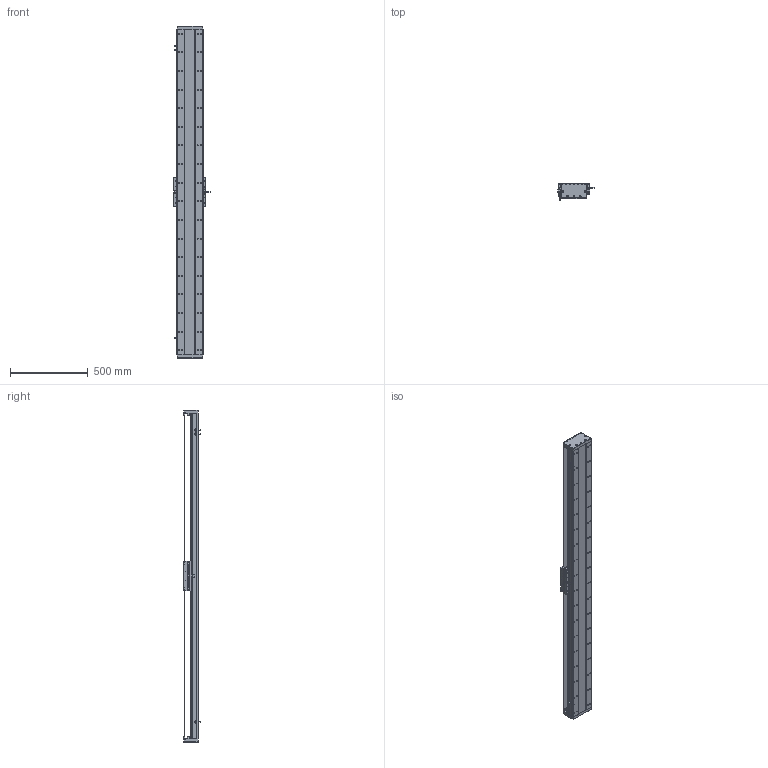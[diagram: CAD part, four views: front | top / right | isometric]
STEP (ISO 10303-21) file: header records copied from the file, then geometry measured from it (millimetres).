
FILE_DESCRIPTION (( 'STEP AP203' ), '1' );
FILE_NAME ('DA-C165-C2-T1860-C010-0.2 直线电机.STEP', '2023-05-11T07:43:44', ( '微软用户' ), ( '微软中国' ), 'SwSTEP 2.0', 'SolidWorks 2019', '' );
FILE_SCHEMA (( 'CONFIG_CONTROL_DESIGN' ));
Length unit declared in the file: millimetre
Products named in the file (18): DA-C165-C2-T1860-C010-0.2 眻盄萇儂; 复件 DA95-HXJ-00 缓冲橡胶^DA-C165-C2-T-C010-0.2-N 直线电机; IU-CU165-L-00 菁釱_L2100; 葩璃 CKM01-W075-TRL^DA-C165-C2-T-C010-0.2-N 眻盄萇儂; 复件 DA165-GD-DG-H-00 端盖^复件 CU165钢带组件_DA-C165-C2-T-C010-0.2-N 直线电机; 复件 CKM02-W075-C1C2-TP-3.0 一体电机-C2^DA-C165-C2-T-C010-0.2-N 直线电机; IU-CU165-L 菁釱絳寢; 复件 DA165-GD-1860-002-00 钢带盖板^复件 CU165钢带组件_DA-C165-C2-T-C010-0.2-N 直线电机; 葩璃 DA95-GT-T-00^IU-CU165-L 菁釱絳寢_T; 复件 DA165-GDLK-00 钢带拉块^复件 CU165钢带组件_DA-C165-C2-T-C010-0.2-N 直线电机; 复件 六角薄螺母 M3^DA-C165-C2-T-C010-0.2-N 直线电机_GB_FASTENER_NUT_STNAB M3-C; 复件 CU165钢带组件^DA-C165-C2-T-C010-0.2-N 直线电机; 复件 DA165-GYP-00 光电感应片^DA-C165-C2-T-C010-0.2-N 直线电机; 复件 DMA-010-0.2 读数头^DA-C165-C2-T-C010-0.2-N 直线电机; 葩璃 PM-T45^DA-C165-C2-T-C010-0.2-N 眻盄萇儂; 珨极趙賑雄怢啣wf-C2; 复件 DA165-GDYK-00 钢带压块^复件 CU165钢带组件_DA-C165-C2-T-C010-0.2-N 直线电机; 复件 XD-U-02L 磁栅尺^DA-C165-C2-T-C010-0.2-N 直线电机_T
Assembly tree (33 placements, depth 3):
  DA-C165-C2-T1860-C010-0.2 眻盄萇儂
    IU-CU165-L 菁釱絳寢
      IU-CU165-L-00 菁釱_L2100
      葩璃 DA95-GT-T-00^IU-CU165-L 菁釱絳寢_T  x4
    复件 XD-U-02L 磁栅尺^DA-C165-C2-T-C010-0.2-N 直线电机_T
    葩璃 PM-T45^DA-C165-C2-T-C010-0.2-N 眻盄萇儂  x3
    葩璃 CKM01-W075-TRL^DA-C165-C2-T-C010-0.2-N 眻盄萇儂
    复件 CU165钢带组件^DA-C165-C2-T-C010-0.2-N 直线电机
      复件 DA165-GD-DG-H-00 端盖^复件 CU165钢带组件_DA-C165-C2-T-C010-0.2-N 直线电机  x2
      复件 DA165-GDYK-00 钢带压块^复件 CU165钢带组件_DA-C165-C2-T-C010-0.2-N 直线电机  x2
      复件 DA165-GD-1860-002-00 钢带盖板^复件 CU165钢带组件_DA-C165-C2-T-C010-0.2-N 直线电机
      复件 DA165-GDLK-00 钢带拉块^复件 CU165钢带组件_DA-C165-C2-T-C010-0.2-N 直线电机  x2
    复件 DA95-HXJ-00 缓冲橡胶^DA-C165-C2-T-C010-0.2-N 直线电机  x4
    复件 DA165-GYP-00 光电感应片^DA-C165-C2-T-C010-0.2-N 直线电机
    复件 DMA-010-0.2 读数头^DA-C165-C2-T-C010-0.2-N 直线电机
    复件 CKM02-W075-C1C2-TP-3.0 一体电机-C2^DA-C165-C2-T-C010-0.2-N 直线电机
    复件 六角薄螺母 M3^DA-C165-C2-T-C010-0.2-N 直线电机_GB_FASTENER_NUT_STNAB M3-C  x6
    珨极趙賑雄怢啣wf-C2
Bounding box: 233 x 111.45 x 2140 mm (x, y, z)
Volume: 12274823.2 mm3; surface area: 3647977.6 mm2
Topology: 70 solids, 70 shells, 3651 faces, 10545 edges, 6711 vertices
Faces by surface type: cylinder 2085, plane 1086, cone 430, torus 46, sphere 4
Entity records: 119595 total; most frequent: CARTESIAN_POINT 31421, ORIENTED_EDGE 18262, DIRECTION 17803, EDGE_CURVE 9131, AXIS2_PLACEMENT_3D 6781, VERTEX_POINT 5947, VECTOR 4241, LINE 4241
